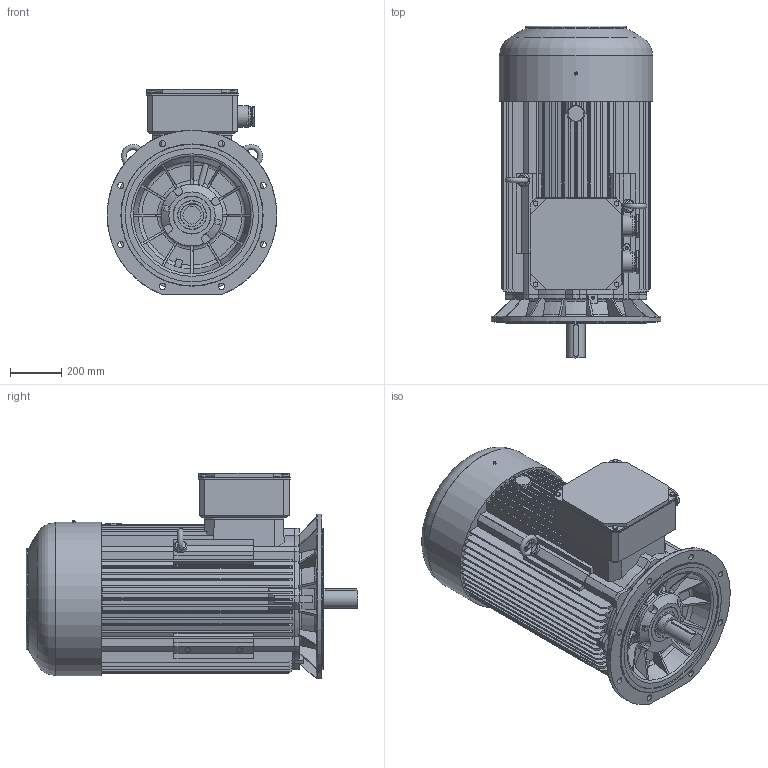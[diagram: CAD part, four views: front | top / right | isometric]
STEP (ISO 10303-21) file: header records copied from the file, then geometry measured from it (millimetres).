
FILE_DESCRIPTION( ( 'Unknown' ), '1' );
FILE_NAME( 'C:/Documents and Settings/kwalica/Pulpit/2,3 SIE paczka/3SIE 315/STP/3SIEK315M2C.stp', 'Unknown', ( 'Unknown' ), ( 'Unknown' ), 'XStep 1.0', 'Unknown', ' ' );
FILE_SCHEMA( ( 'CONFIG_CONTROL_DESIGN' ) );
Length unit declared in the file: millimetre
Products named in the file (4): 1; 2; 3; 4
Bounding box: 660 x 1290 x 799.5 mm (x, y, z)
Volume: 280536228.7 mm3; surface area: 6768604.4 mm2
Topology: 4 solids, 20 shells, 1290 faces, 3522 edges, 2323 vertices
Faces by surface type: plane 790, cylinder 262, cone 117, torus 105, bspline 16
Full cylindrical faces by diameter (mm): 1.6 x2, 5 x4, 10.106 x4, 13.835 x1, 16.63 x4, 24 x12, 50 x2, 55 x2, 57 x4, 65 x4, 70 x3, 71 x6, 72 x2, 72.752 x2, 76 x2, 85 x2, 89.5 x1, 90 x1, 99.4 x1, 100 x1, 111.399 x1, 112 x1, 119.4 x1, 119.999 x1, 131.399 x1, 132 x1, 139.4 x1, 139.999 x1, 147 x1, 147.6 x1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
Entity records: 49582 total; most frequent: CARTESIAN_POINT 17777, ORIENTED_EDGE 6648, DIRECTION 6354, EDGE_CURVE 3324, VERTEX_POINT 2254, AXIS2_PLACEMENT_3D 2217, LINE 1920, VECTOR 1920
